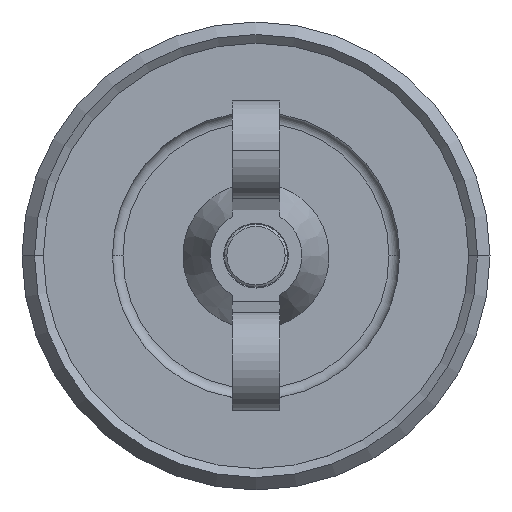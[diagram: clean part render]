
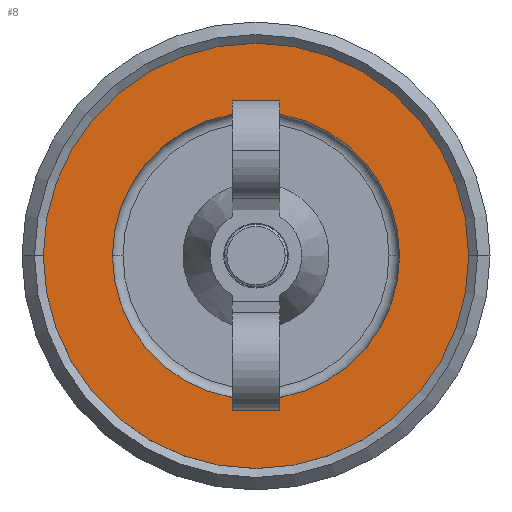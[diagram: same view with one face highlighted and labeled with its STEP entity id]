
A CAD part, top view. The second image highlights one B-rep face of the part: STEP entity #8.
In plain terms, the highlighted planar face has unit normal (0, 0, 1) as drawn and (-1, 0, 0) by its records, which use the part's own axes.
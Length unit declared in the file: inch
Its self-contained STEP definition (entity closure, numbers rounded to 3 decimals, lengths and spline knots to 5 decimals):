
#8 = ADVANCED_FACE ( 'NONE', ( #1675, #142 ), #2793, .F. ) ;
#98 = ORIENTED_EDGE ( 'NONE', *, *, #1294, .T. ) ;
#142 = FACE_OUTER_BOUND ( 'NONE', #1481, .T. ) ;
#240 = ORIENTED_EDGE ( 'NONE', *, *, #953, .F. ) ;
#241 = ORIENTED_EDGE ( 'NONE', *, *, #1289, .F. ) ;
#299 = ORIENTED_EDGE ( 'NONE', *, *, #932, .T. ) ;
#492 = AXIS2_PLACEMENT_3D ( 'NONE', #2618, #2589, #2590 ) ;
#539 = AXIS2_PLACEMENT_3D ( 'NONE', #2549, #2542, #2551 ) ;
#543 = AXIS2_PLACEMENT_3D ( 'NONE', #2554, #705, #664 ) ;
#664 = DIRECTION ( 'NONE',  ( 0., 0., 1. ) ) ;
#705 = DIRECTION ( 'NONE',  ( -1., 0., 0. ) ) ;
#932 = EDGE_CURVE ( 'NONE', #2780, #2808, #1660, .T. ) ;
#953 = EDGE_CURVE ( 'NONE', #2685, #2768, #1631, .T. ) ;
#1289 = EDGE_CURVE ( 'NONE', #2768, #2685, #1625, .T. ) ;
#1294 = EDGE_CURVE ( 'NONE', #2808, #2780, #1618, .T. ) ;
#1310 = AXIS2_PLACEMENT_3D ( 'NONE', #2789, #2693, #2690 ) ;
#1359 = AXIS2_PLACEMENT_3D ( 'NONE', #2258, #2355, #2344 ) ;
#1467 = EDGE_LOOP ( 'NONE', ( #241, #240 ) ) ;
#1481 = EDGE_LOOP ( 'NONE', ( #98, #299 ) ) ;
#1618 = CIRCLE ( 'NONE', #543, 0.625 ) ;
#1625 = CIRCLE ( 'NONE', #539, 0.422 ) ;
#1631 = CIRCLE ( 'NONE', #492, 0.422 ) ;
#1660 = CIRCLE ( 'NONE', #1359, 0.625 ) ;
#1675 = FACE_BOUND ( 'NONE', #1467, .T. ) ;
#1952 = CARTESIAN_POINT ( 'NONE',  ( -0.086, 0., 0.625 ) ) ;
#1974 = CARTESIAN_POINT ( 'NONE',  ( -0.086, 0., -0.625 ) ) ;
#1980 = CARTESIAN_POINT ( 'NONE',  ( -0.086, 0., 0.422 ) ) ;
#2020 = CARTESIAN_POINT ( 'NONE',  ( -0.086, 0., -0.422 ) ) ;
#2258 = CARTESIAN_POINT ( 'NONE',  ( -0.086, 0., 0. ) ) ;
#2344 = DIRECTION ( 'NONE',  ( 0., 0., 1. ) ) ;
#2355 = DIRECTION ( 'NONE',  ( -1., 0., 0. ) ) ;
#2542 = DIRECTION ( 'NONE',  ( -1., 0., 0. ) ) ;
#2549 = CARTESIAN_POINT ( 'NONE',  ( -0.086, 0., 0. ) ) ;
#2551 = DIRECTION ( 'NONE',  ( 0., 0., 1. ) ) ;
#2554 = CARTESIAN_POINT ( 'NONE',  ( -0.086, 0., 0. ) ) ;
#2589 = DIRECTION ( 'NONE',  ( -1., 0., 0. ) ) ;
#2590 = DIRECTION ( 'NONE',  ( 0., 0., 1. ) ) ;
#2618 = CARTESIAN_POINT ( 'NONE',  ( -0.086, 0., 0. ) ) ;
#2685 = VERTEX_POINT ( 'NONE', #2020 ) ;
#2690 = DIRECTION ( 'NONE',  ( 0., 0., -1. ) ) ;
#2693 = DIRECTION ( 'NONE',  ( 1., 0., 0. ) ) ;
#2768 = VERTEX_POINT ( 'NONE', #1980 ) ;
#2780 = VERTEX_POINT ( 'NONE', #1974 ) ;
#2789 = CARTESIAN_POINT ( 'NONE',  ( -0.086, 0.625, 0. ) ) ;
#2793 = PLANE ( 'NONE',  #1310 ) ;
#2808 = VERTEX_POINT ( 'NONE', #1952 ) ;
